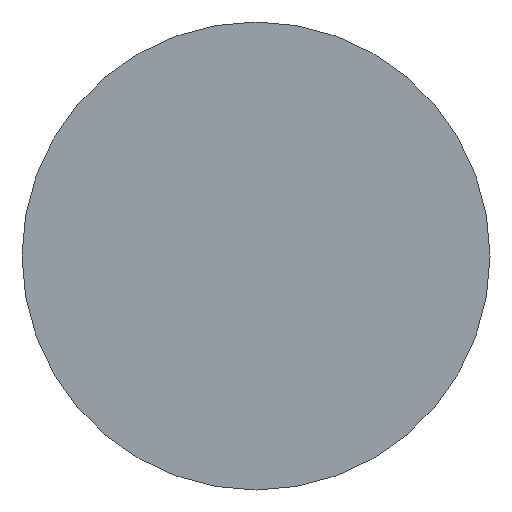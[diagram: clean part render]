
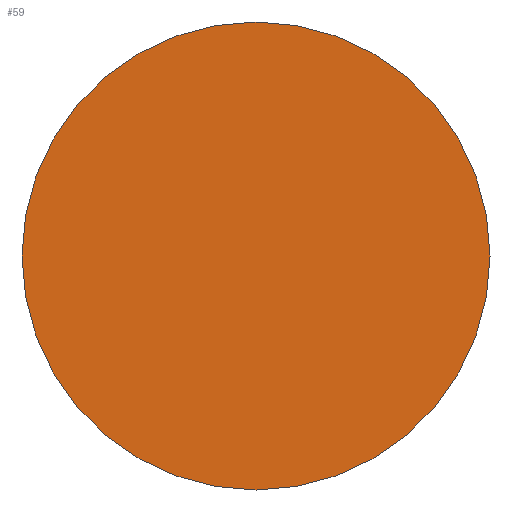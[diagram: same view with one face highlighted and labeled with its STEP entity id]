
A CAD part, front view. The second image highlights one B-rep face of the part: STEP entity #59.
In plain terms, the highlighted planar face has unit normal (0, -1, 0).
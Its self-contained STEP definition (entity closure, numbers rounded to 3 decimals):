
#30 = VERTEX_POINT ( 'NONE', #158 ) ;
#32 = CARTESIAN_POINT ( 'NONE',  ( 0.354, 0., -0.177 ) ) ;
#39 = CARTESIAN_POINT ( 'NONE',  ( 0.354, 0., -0.177 ) ) ;
#55 = PLANE ( 'NONE',  #87 ) ;
#59 = ADVANCED_FACE ( 'NONE', ( #181 ), #55, .F. ) ;
#78 = CARTESIAN_POINT ( 'NONE',  ( 0.354, 0., -60.177 ) ) ;
#79 = DIRECTION ( 'NONE',  ( 0., 1., 0. ) ) ;
#81 = CIRCLE ( 'NONE', #199, 60. ) ;
#84 = DIRECTION ( 'NONE',  ( 0., 1., 0. ) ) ;
#87 = AXIS2_PLACEMENT_3D ( 'NONE', #32, #99, #179 ) ;
#96 = VERTEX_POINT ( 'NONE', #78 ) ;
#99 = DIRECTION ( 'NONE',  ( 0., 1., 0. ) ) ;
#104 = CIRCLE ( 'NONE', #121, 60. ) ;
#105 = DIRECTION ( 'NONE',  ( 0., 0., 1. ) ) ;
#121 = AXIS2_PLACEMENT_3D ( 'NONE', #39, #84, #105 ) ;
#133 = EDGE_LOOP ( 'NONE', ( #212, #175 ) ) ;
#158 = CARTESIAN_POINT ( 'NONE',  ( 0.354, 0., 59.823 ) ) ;
#161 = CARTESIAN_POINT ( 'NONE',  ( 0.354, 0., -0.177 ) ) ;
#175 = ORIENTED_EDGE ( 'NONE', *, *, #231, .F. ) ;
#179 = DIRECTION ( 'NONE',  ( 0., 0., 1. ) ) ;
#181 = FACE_OUTER_BOUND ( 'NONE', #133, .T. ) ;
#199 = AXIS2_PLACEMENT_3D ( 'NONE', #161, #79, #220 ) ;
#212 = ORIENTED_EDGE ( 'NONE', *, *, #246, .F. ) ;
#220 = DIRECTION ( 'NONE',  ( 0., 0., 1. ) ) ;
#231 = EDGE_CURVE ( 'NONE', #30, #96, #81, .T. ) ;
#246 = EDGE_CURVE ( 'NONE', #96, #30, #104, .T. ) ;
